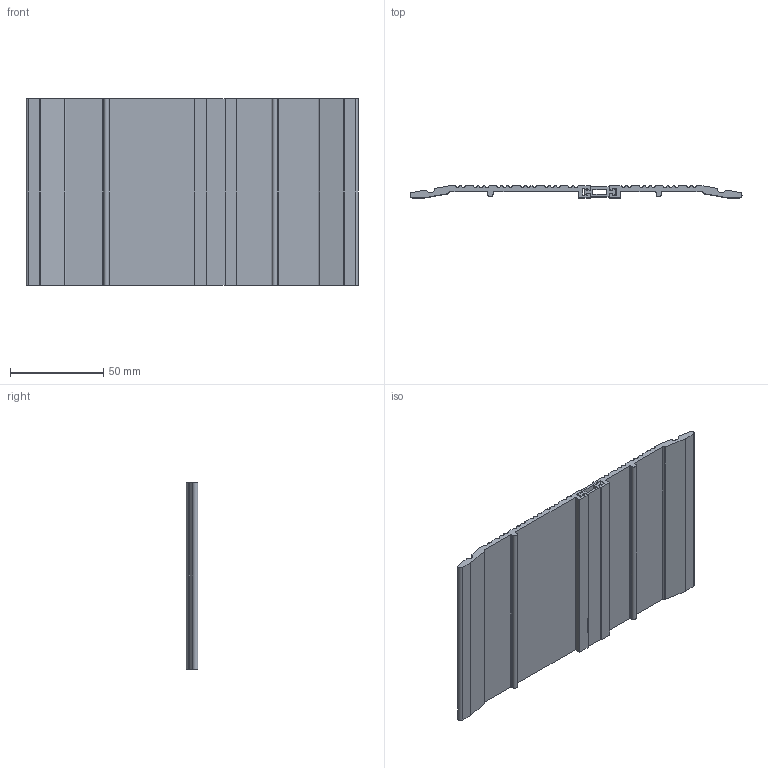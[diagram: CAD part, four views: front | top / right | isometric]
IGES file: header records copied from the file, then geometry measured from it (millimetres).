
Global section: file name: No Iges File Name specified; native system: Autodesk Inventor 2012; preprocessor: AutoDesk Inventor Iges Exporter R2012; author: anna.b; date: 20170316.140839; units: millimetre
Bounding box: 177.8 x 6.35 x 100 mm (x, y, z)
Volume: 56881.4 mm3; surface area: 49420.8 mm2
Topology: 3 solids, 3 shells, 197 faces, 573 edges, 382 vertices
Faces by surface type: plane 98, cylinder 65, revolution 34
